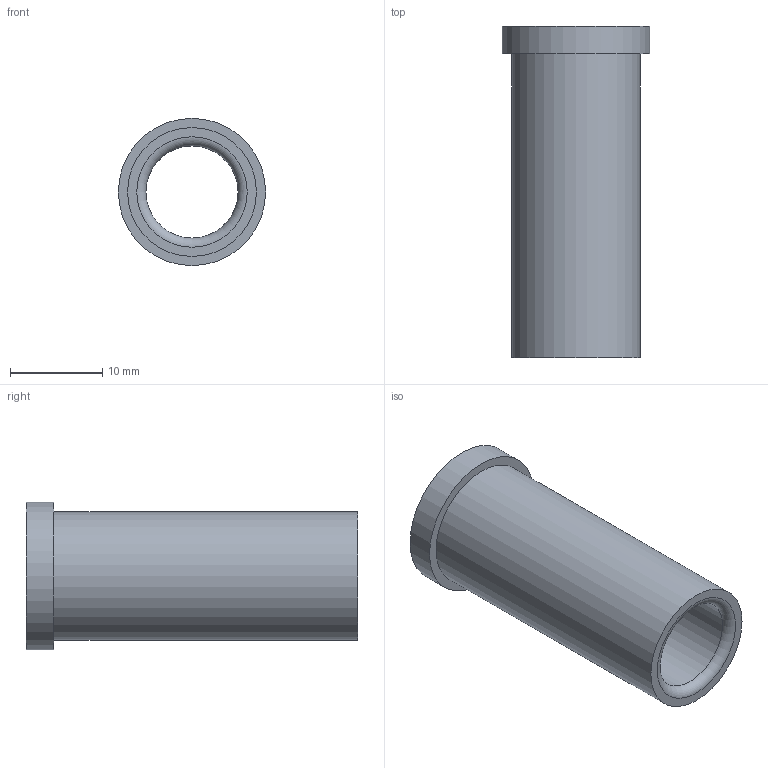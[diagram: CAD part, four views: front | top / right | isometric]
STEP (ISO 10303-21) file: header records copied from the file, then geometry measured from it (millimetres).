
FILE_DESCRIPTION(/* description */ ('STEP AP214'),/* implementation_level */ '2;1');
FILE_NAME(/* name */ '03_12_17837',/* time_stamp */ '2023-06-15T11:35:22+02:00',/* author */ ('License CC BY-ND 4.0'),/* organization */ ('CADENAS'),/* preprocessor_version */ 'ST-DEVELOPER v19.3',/* originating_system */ 'PARTsolutions',/* authorisation */ ' ');
FILE_SCHEMA (('AUTOMOTIVE_DESIGN {1 0 10303 214 3 1 1}'));
Length unit declared in the file: millimetre
Products named in the file (1): VA_Bushing_17837
Bounding box: 16 x 36 x 16 mm (x, y, z)
Volume: 2771.3 mm3; surface area: 2964.9 mm2
Topology: 1 solids, 1 shells, 10 faces, 16 edges, 10 vertices
Faces by surface type: cylinder 4, plane 4, torus 2
Full cylindrical faces by diameter (mm): 10 x1, 10.6 x1, 14 x1, 16 x1
Entity records: 302 total; most frequent: DIRECTION 42, CARTESIAN_POINT 31, AXIS2_PLACEMENT_3D 21, ORIENTED_EDGE 20, EDGE_LOOP 20, FACE_BOUND 20, EDGE_CURVE 10, VERTEX_POINT 10
